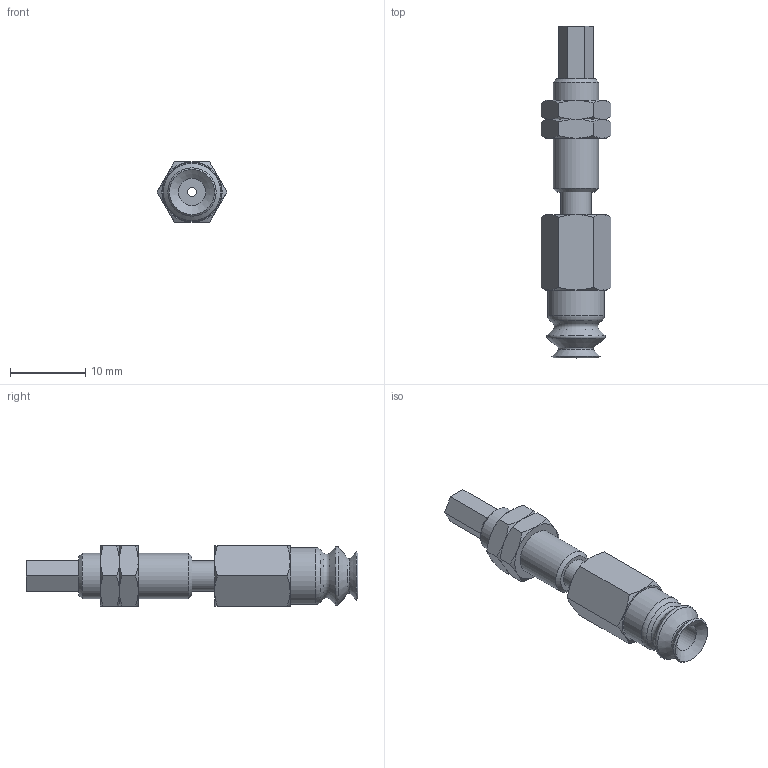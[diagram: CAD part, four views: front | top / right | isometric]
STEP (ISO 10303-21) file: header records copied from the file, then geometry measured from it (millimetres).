
FILE_DESCRIPTION(('STEP AP203'),'1');
FILE_NAME('.stp','2025-08-27T07:07:01',(' '),(' '),'Spatial InterOp 3D',' ',' ');
FILE_SCHEMA(('CONFIG_CONTROL_DESIGN'));
Length unit declared in the file: millimetre
Products named in the file (6): BNABPJTS-6-3-※; ADAPTER; NAPCTS-7-3-MBODY; NUT-NAPJ-6-3-s; NAPJTS-6-3-FBODY; BPJG-6-※
Assembly tree (6 placements, depth 2):
  BNABPJTS-6-3-※
    ADAPTER
    NAPCTS-7-3-MBODY
    NUT-NAPJ-6-3-s  x2
    NAPJTS-6-3-FBODY
    BPJG-6-※
Bounding box: 9.24 x 44 x 8 mm (x, y, z)
Volume: 1481.8 mm3; surface area: 2209.9 mm2
Topology: 6 solids, 6 shells, 119 faces, 254 edges, 150 vertices
Faces by surface type: cone 51, plane 45, cylinder 14, torus 9
Full cylindrical faces by diameter (mm): 1.2 x2, 2.459 x1, 3.64 x1, 4 x4, 5.188 x2, 6 x3, 7.5 x1
Entity records: 2778 total; most frequent: CARTESIAN_POINT 639, DIRECTION 392, ORIENTED_EDGE 320, AXIS2_PLACEMENT_3D 178, EDGE_CURVE 160, EDGE_LOOP 143, FACE_OUTER_BOUND 118, VERTEX_POINT 111
